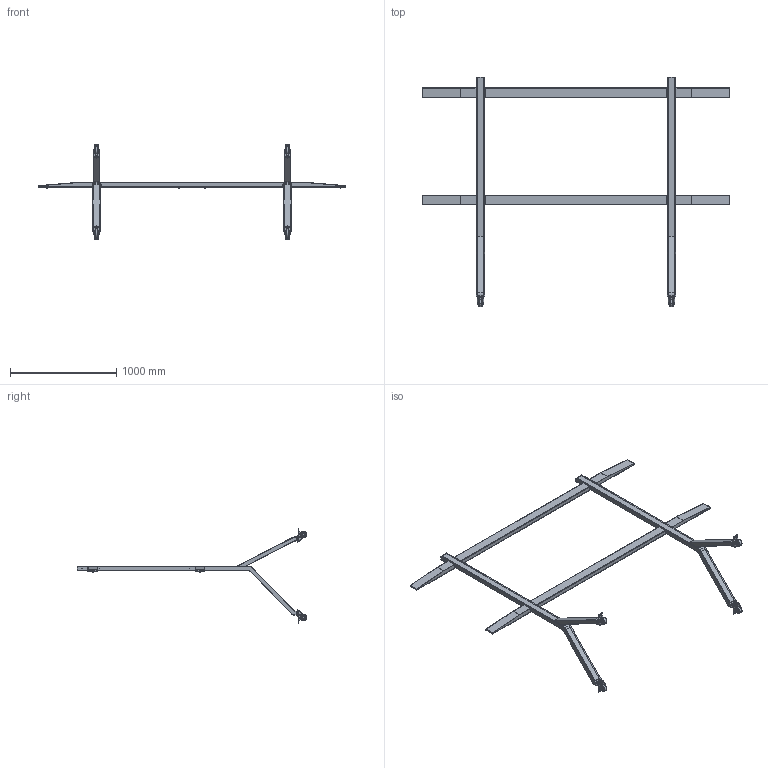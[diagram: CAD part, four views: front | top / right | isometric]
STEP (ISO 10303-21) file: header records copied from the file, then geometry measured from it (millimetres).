
FILE_DESCRIPTION (( 'STEP AP203' ), '1' );
FILE_NAME ('URL136-T Stand 3D 052323.STEP', '2023-05-24T17:56:55', ( '' ), ( '' ), 'SwSTEP 2.0', 'SolidWorks 2023', '' );
FILE_SCHEMA (( 'CONFIG_CONTROL_DESIGN' ));
Length unit declared in the file: millimetre
Products named in the file (15): 48029035750r00-02; 48029035750r00-01; 48029035750R00-04; 48029035750R00-05; 48029035750r00; 48029035750R00-02; URL136-T Stand 3D 052323; M812_GB700; 25-INCH; 48029035750R00-01; 48029035750r00-03; 48029035750r00-04; 48029035750R00-03; GBT96_1-2002__80001; M4X10_GB819copy
Assembly tree (51 placements, depth 4):
  URL136-T Stand 3D 052323
    48029035750r00
      48029035750r00-01  x2
        48029035750R00-01
        25-INCH
      48029035750r00-02  x2
        48029035750R00-02
        48029035750R00-05
      48029035750r00-03  x2
        48029035750R00-03
        48029035750R00-05
      48029035750r00-04  x2
        48029035750R00-04
        48029035750R00-05
      GBT96_1-2002__80001  x8
      M812_GB700  x8
      M4X10_GB819copy  x16
Bounding box: 2903 x 2162 x 901.16 mm (x, y, z)
Volume: 13291961.2 mm3; surface area: 4904082.9 mm2
Topology: 56 solids, 56 shells, 2804 faces, 7032 edges, 4452 vertices
Faces by surface type: cylinder 1106, plane 1012, cone 254, torus 212, bspline 204, sphere 16
Entity records: 40506 total; most frequent: CARTESIAN_POINT 20570, ORIENTED_EDGE 4320, DIRECTION 2273, EDGE_CURVE 2160, B_SPLINE_CURVE_WITH_KNOTS 1725, VERTEX_POINT 1374, EDGE_LOOP 1068, AXIS2_PLACEMENT_3D 1011
